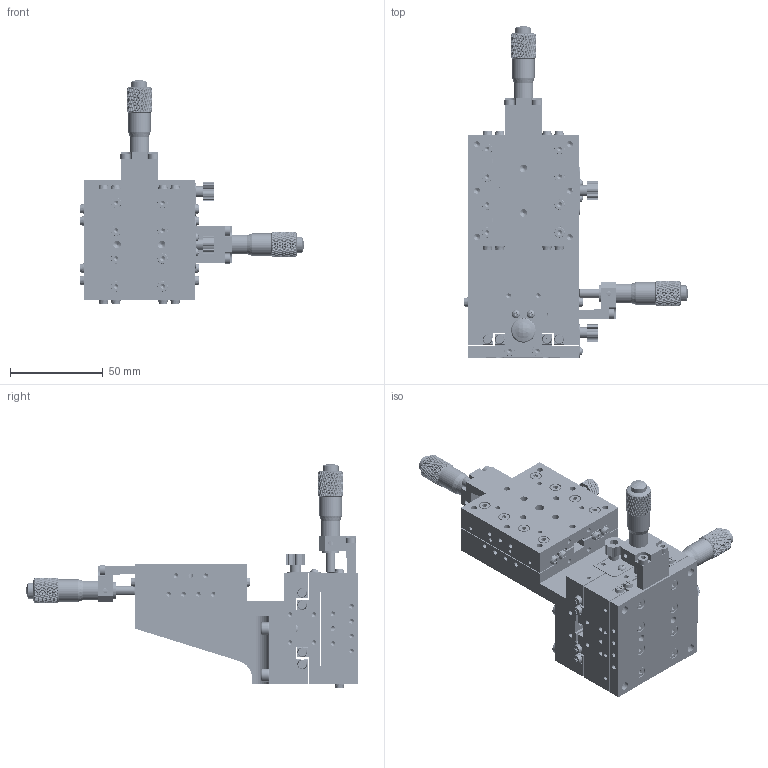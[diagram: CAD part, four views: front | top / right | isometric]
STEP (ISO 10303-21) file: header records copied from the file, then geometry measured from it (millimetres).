
FILE_DESCRIPTION (( 'STEP AP203' ), '1' );
FILE_NAME ('JCXYZ-60C.STEP', '2013-12-24T02:44:34', ( 'MMO' ), ( '' ), 'SwSTEP 2.0', 'SolidWorks 2013', '' );
FILE_SCHEMA (( 'CONFIG_CONTROL_DESIGN' ));
Length unit declared in the file: millimetre
Products named in the file (16): JCX-60C(20T); JCX-60-20T-002; JCX-60CL(20T); JV2-60-11; socket head cap screw_ks_KS 1003 - M4 x 6 x 6-N; JCX-60-18T-006; JCXY-60C; JCX-60-20T-005; JCX-60-11-01; JCX-60-18T-007; JCX-60-20T-001; JCX-60CLZ(20T); JALB-72-R; JCXYZ-60C; round cross head screw_ks_KS 1023 RC - M2.5 x 5-N; socket head cap screw_ks_KS 1003 - M3 x 5 x 5-N
Assembly tree (107 placements, depth 4):
  JCXYZ-60C
    JCXY-60C
      JCX-60C(20T)
        JCX-60-20T-001
        JCX-60-20T-002
        JV2-60-11  x4
        JCX-60-18T-006
        JCX-60-20T-005
        JCX-60-18T-007
        JALB-72-R
        round cross head screw_ks_KS 1023 RC - M2.5 x 5-N  x2
        socket head cap screw_ks_KS 1003 - M3 x 5 x 5-N  x18
      JCX-60CL(20T)
        JCX-60-20T-001
        JCX-60-20T-002
        JV2-60-11  x4
        JCX-60-18T-007
        JALB-72-R
        socket head cap screw_ks_KS 1003 - M3 x 5 x 5-N  x18
        JCX-60-20T-005
        round cross head screw_ks_KS 1023 RC - M2.5 x 5-N  x2
        JCX-60-18T-006
      socket head cap screw_ks_KS 1003 - M4 x 6 x 6-N  x4
    JCX-60-11-01
    JCX-60CLZ(20T)
      JCX-60-20T-001
      JCX-60-20T-002
      JV2-60-11  x4
      JCX-60-18T-007
      JALB-72-R
      socket head cap screw_ks_KS 1003 - M3 x 5 x 5-N  x18
      JCX-60-20T-005
      JCX-60-18T-006
      round cross head screw_ks_KS 1023 RC - M2.5 x 5-N  x2
    socket head cap screw_ks_KS 1003 - M4 x 6 x 6-N  x8
Bounding box: 120.7 x 178.7 x 120.7 mm (x, y, z)
Volume: 283474 mm3; surface area: 147354.7 mm2
Topology: 103 solids, 103 shells, 8334 faces, 19170 edges, 11060 vertices
Faces by surface type: cylinder 2506, bspline 2496, plane 2300, cone 582, torus 420, sphere 30
Entity records: 70086 total; most frequent: CARTESIAN_POINT 33573, ORIENTED_EDGE 8196, DIRECTION 5158, EDGE_CURVE 4098, VERTEX_POINT 2387, AXIS2_PLACEMENT_3D 2082, EDGE_LOOP 1985, FACE_OUTER_BOUND 1800
